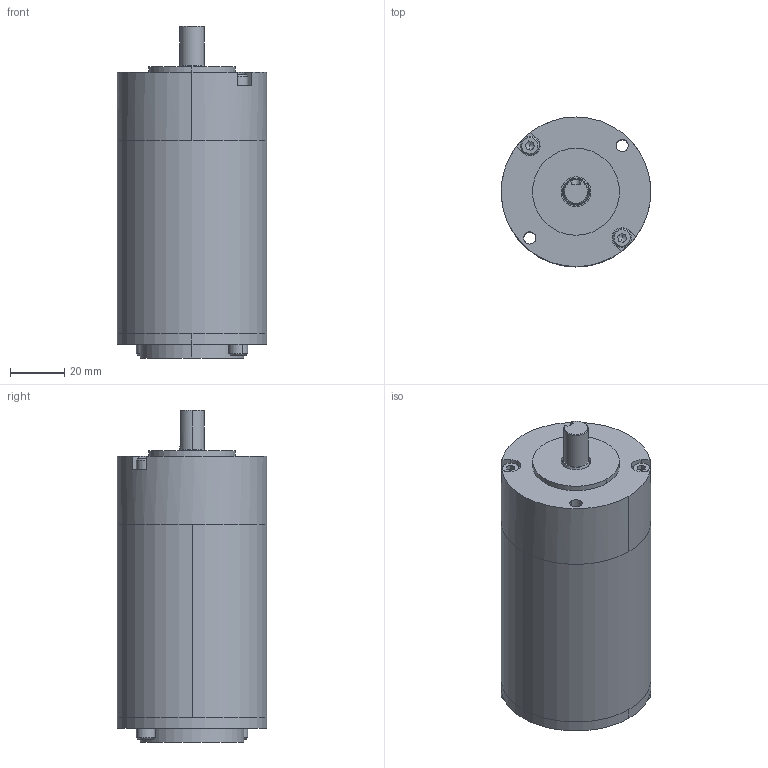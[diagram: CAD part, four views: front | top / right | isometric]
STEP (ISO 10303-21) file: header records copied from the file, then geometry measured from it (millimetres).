
FILE_DESCRIPTION (( 'STEP AP214' ), '1' );
FILE_NAME ('MC100-0.8 MS.STEP', '2013-11-21T09:39:43', ( '' ), ( '' ), 'SwSTEP 2.0', 'SolidWorks 2013', '' );
FILE_SCHEMA (( 'AUTOMOTIVE_DESIGN' ));
Length unit declared in the file: millimetre
Products named in the file (1): MC100-0.8 MS
Bounding box: 55 x 55 x 122 mm (x, y, z)
Surface area: 30399.5 mm2 (no closed solid volume)
Topology: 0 solids, 9 shells, 125 faces, 395 edges, 278 vertices
Faces by surface type: plane 56, cylinder 42, cone 21, bspline 6
Entity records: 6263 total; most frequent: CARTESIAN_POINT 1354, DIRECTION 733, ORIENTED_EDGE 664, EDGE_CURVE 387, VERTEX_POINT 278, AXIS2_PLACEMENT_3D 273, LINE 187, VECTOR 187
